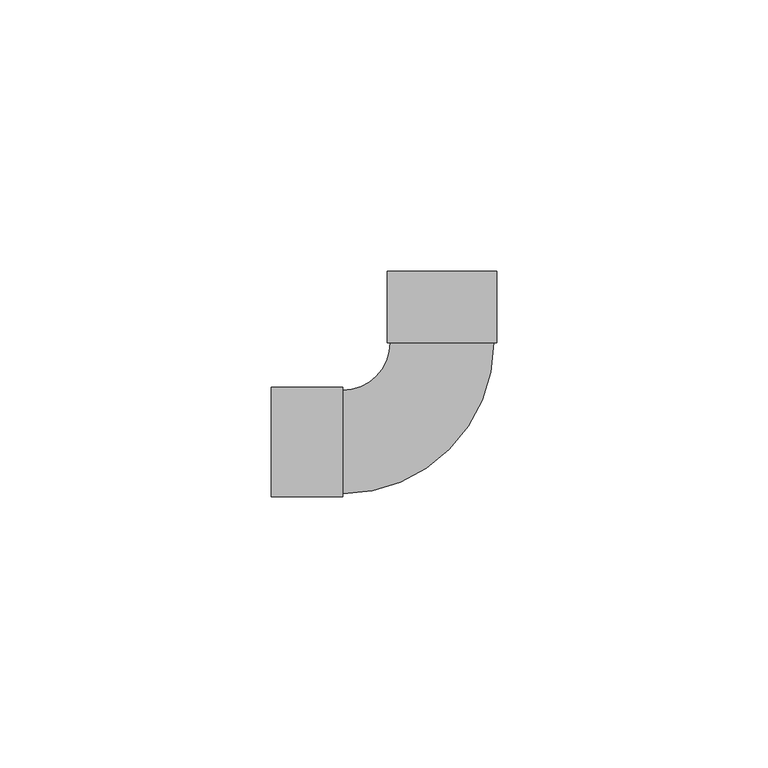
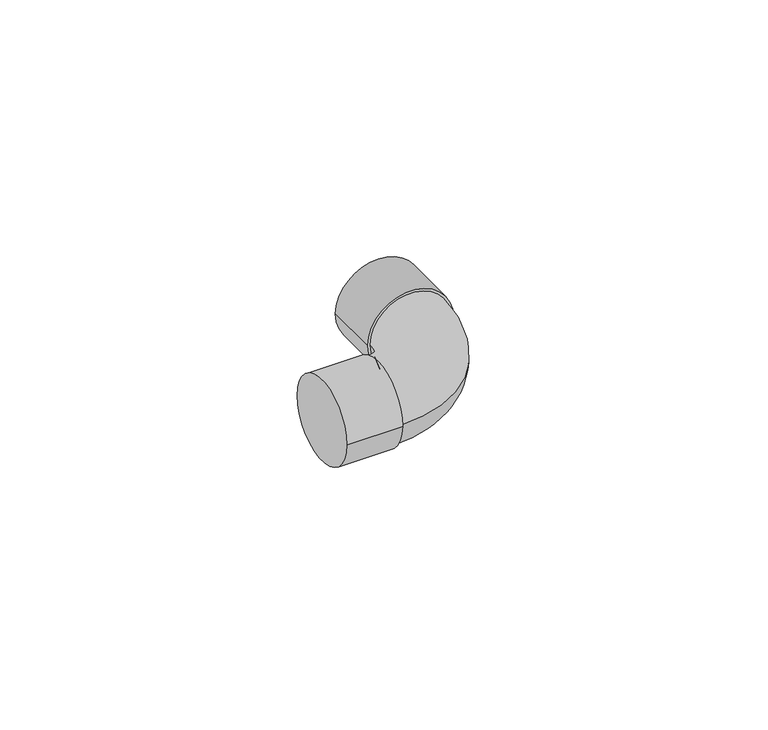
"""IFC4 building model written with IfcOpenShell, lengths in millimetres: pipe fitting geometry, Cotovelo - Soldado - CU : Padrão."""

from ifc_helpers import new_model, si_unit, point, frame, origin, place, context, project, spatial, circle_curve, ellipse_curve, trimmed, source, transform, mapped, element, save
from ifc_brep_helpers import plane_surface, cylinder_surface, revolved_surface, advanced_brep


def pipe_fitting_0e110a5f(model_context):
    return source(origin(), model_context, "Body", "AdvancedBrep", [
        advanced_brep(
        [(-9.525, 18.3055, 0.0), (-18.3055, 9.525, 0.0), (-18.3055, -9.525, 0.0), (9.525, 18.3055, 0.0), (-31.459, -10.1155, 0.0), (-31.459, 10.1155, 0.0), (-18.3055, -10.1155, 0.0), (-18.3055, 10.1155, 0.0), (-10.1155, 31.459, 0.0), (10.1155, 31.459, 0.0), (-10.1155, 18.3055, 0.0), (10.1155, 18.3055, 0.0)],
        [
            (0, 1, circle_curve(frame((-18.3055, 18.3055, 0.0), z_axis=(0.0, 0.0, -1.0), x_axis=(0.0, -1.0, 0.0)), 8.7805)),
            (1, 2, circle_curve(frame((-18.3055, 0.0, 0.0), z_axis=(1.0, 0.0, 0.0), x_axis=(0.0, 1.0, 0.0)), 9.525)),
            (2, 3, circle_curve(frame((-18.3055, 18.3055, 0.0), z_axis=(0.0, 0.0, 1.0), x_axis=(0.0, -1.0, 0.0)), 27.8305)),
            (3, 0, circle_curve(frame((0.0, 18.3055, 0.0), z_axis=(0.0, -1.0, 0.0), x_axis=(-1.0, 0.0, 0.0)), 9.525)),
            (0, 3, circle_curve(frame((0.0, 18.3055, 0.0), z_axis=(0.0, -1.0, 0.0), x_axis=(-1.0, 0.0, 0.0)), 9.525)),
            (2, 1, circle_curve(frame((-18.3055, 0.0, 0.0), z_axis=(1.0, 0.0, 0.0), x_axis=(0.0, 1.0, 0.0)), 9.525)),
            (4, 5, circle_curve(frame((-31.459, 0.0, 0.0), z_axis=(-1.0, 0.0, 0.0), x_axis=(0.0, 1.0, 0.0)), 10.1155)),
            (5, 4, circle_curve(frame((-31.459, 0.0, 0.0), z_axis=(-1.0, 0.0, 0.0), x_axis=(0.0, 1.0, 0.0)), 10.1155)),
            (6, 7, circle_curve(frame((-18.3055, 0.0, 0.0), z_axis=(1.0, 0.0, 0.0), x_axis=(0.0, 1.0, 0.0)), 10.1155)),
            (7, 6, circle_curve(frame((-18.3055, 0.0, 0.0), z_axis=(1.0, 0.0, 0.0), x_axis=(0.0, 1.0, 0.0)), 10.1155)),
            (4, 6),
            (7, 5),
            (8, 9, circle_curve(frame((0.0, 31.459, 0.0), z_axis=(0.0, 1.0, 0.0), x_axis=(1.0, 0.0, 0.0)), 10.1155)),
            (9, 8, circle_curve(frame((0.0, 31.459, 0.0), z_axis=(0.0, 1.0, 0.0), x_axis=(1.0, 0.0, 0.0)), 10.1155)),
            (10, 11, circle_curve(frame((0.0, 18.3055, 0.0), z_axis=(0.0, -1.0, 0.0), x_axis=(1.0, 0.0, 0.0)), 10.1155)),
            (11, 10, circle_curve(frame((0.0, 18.3055, 0.0), z_axis=(0.0, -1.0, 0.0), x_axis=(1.0, 0.0, 0.0)), 10.1155)),
            (8, 10),
            (11, 9),
        ],
        [
            revolved_surface(trimmed(ellipse_curve(frame((-18.3055, 0.0, 0.0), z_axis=(-1.0, 0.0, 0.0), x_axis=(0.0, 1.0, 0.0)), 9.525, 9.525), [point((-18.3055, -9.525, 0.0))], [point((-18.3055, 9.525, 0.0))], True, "CARTESIAN"), (-18.3055, 18.3055, 0.0), (0.0, 0.0, 1.0)),
            revolved_surface(trimmed(ellipse_curve(frame((-18.3055, 0.0, 0.0), z_axis=(-1.0, 0.0, 0.0), x_axis=(0.0, 1.0, 0.0)), 9.525, 9.525), [point((-18.3055, 9.525, 0.0))], [point((-18.3055, -9.525, 0.0))], True, "CARTESIAN"), (-18.3055, 18.3055, 0.0), (0.0, 0.0, 1.0)),
            plane_surface(frame((-31.459, 0.0, 0.0), z_axis=(-1.0, 0.0, 0.0), x_axis=(0.0, 0.0, 1.0))),
            plane_surface(frame((-18.3055, 0.0, 0.0), z_axis=(1.0, 0.0, 0.0), x_axis=(0.0, 0.0, 1.0))),
            cylinder_surface(frame((-31.459, 0.0, 0.0), z_axis=(-1.0, 0.0, 0.0), x_axis=(0.0, 1.0, 0.0)), 10.1155),
            plane_surface(frame((0.0, 31.459, 0.0), z_axis=(0.0, 1.0, 0.0), x_axis=(0.0, 0.0, 1.0))),
            plane_surface(frame((0.0, 18.3055, 0.0), z_axis=(0.0, -1.0, 0.0), x_axis=(0.0, 0.0, 1.0))),
            cylinder_surface(frame((0.0, 31.459, 0.0), z_axis=(0.0, 1.0, 0.0), x_axis=(1.0, 0.0, 0.0)), 10.1155),
        ],
        [
            (0, [[1, 2, 3, 4]]),
            (1, [[-1, 5, -3, 6]]),
            (2, [[7, 8]]),
            (3, [[9, 10], [-2, -6]]),
            (4, [[-7, 11, -10, 12]]),
            (4, [[-8, -12, -9, -11]]),
            (5, [[13, 14]]),
            (6, [[15, 16], [-4, -5]]),
            (7, [[-13, 17, -16, 18]]),
            (7, [[-14, -18, -15, -17]]),
        ],
    ),
    ])


if __name__ == "__main__":
    model = new_model("IFC4")
    model_context = context("Model", 3, world=origin())
    ifc_project = project(units=[si_unit("LENGTHUNIT", "METRE", prefix="MILLI")], contexts=[model_context])
    site = spatial("IfcSite", under=ifc_project)
    building = spatial("IfcBuilding", under=site)
    placement = place(None, origin())
    pipe_fitting_shape = pipe_fitting_0e110a5f(model_context)
    element("IfcPipeFitting", 1, ObjectType="Cotovelo - Soldado - CU : Padrão", at=placement, inside=building, context=model_context, shape_type="MappedRepresentation", body=[
        mapped(pipe_fitting_shape, transform((0.0, 0.0, 0.0), x_axis=(1.0, 0.0, 0.0), y_axis=(0.0, 1.0, 0.0), z_axis=(0.0, 0.0, 1.0))),
    ])
    save(model, "model.ifc")
